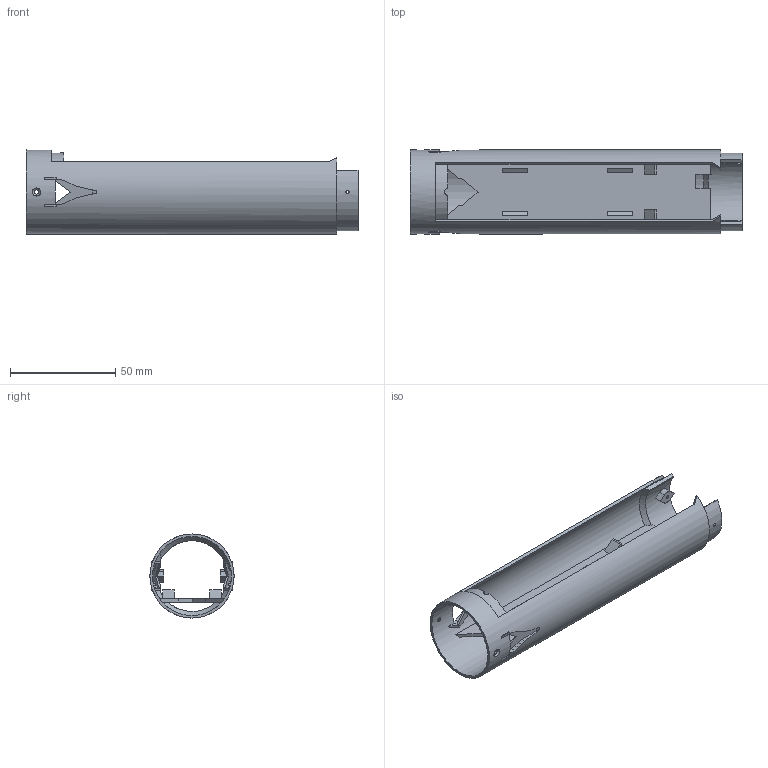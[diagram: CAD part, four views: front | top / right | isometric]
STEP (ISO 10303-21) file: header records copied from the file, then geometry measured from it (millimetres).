
FILE_DESCRIPTION(('SkyG Speed 90 - revision C6-9 - 2026-10-07','F1-fuselage-front'),'2;1');
FILE_NAME('F1-fuselage-front_C6-9','2026-10-07T14:03:25',('Author'),( 'Open CASCADE'),'Open CASCADE STEP processor 7.9','Open CASCADE 7.9' ,'Unknown');
FILE_SCHEMA(('AUTOMOTIVE_DESIGN { 1 0 10303 214 1 1 1 1 }'));
Length unit declared in the file: millimetre
Products named in the file (1): F1-fuselage-front C6-9
Bounding box: 158 x 40 x 40 mm (x, y, z)
Volume: 25239.1 mm3; surface area: 37889.8 mm2
Topology: 1 solids, 1 shells, 231 faces, 670 edges, 438 vertices
Faces by surface type: plane 168, bspline 38, cylinder 19, cone 6
Full cylindrical faces by diameter (mm): 1.6 x2, 2.2 x2, 37.6 x1, 40 x1
Entity records: 20040 total; most frequent: CARTESIAN_POINT 8289, DIRECTION 1636, ORIENTED_EDGE 1340, PCURVE 1340, DEFINITIONAL_REPRESENTATION 1340, LINE 1001, VECTOR 1001, B_SPLINE_CURVE_WITH_KNOTS 829
